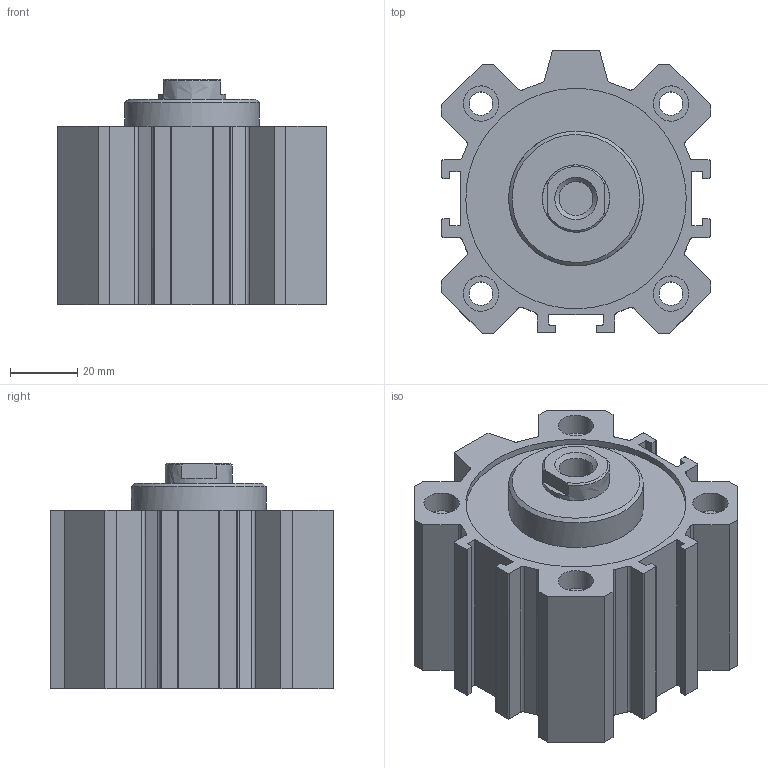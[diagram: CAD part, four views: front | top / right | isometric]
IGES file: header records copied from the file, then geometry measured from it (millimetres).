
Global section: file name: 1511_63_0010; native system: Autodesk Inventor 2014; preprocessor: unknown; author: A. Manieri; date: 20160824.140033; units: millimetre
Bounding box: 80 x 84 x 67 mm (x, y, z)
Volume: 246291.6 mm3; surface area: 63689.5 mm2
Topology: 2 solids, 2 shells, 165 faces, 443 edges, 300 vertices
Faces by surface type: bspline 165
